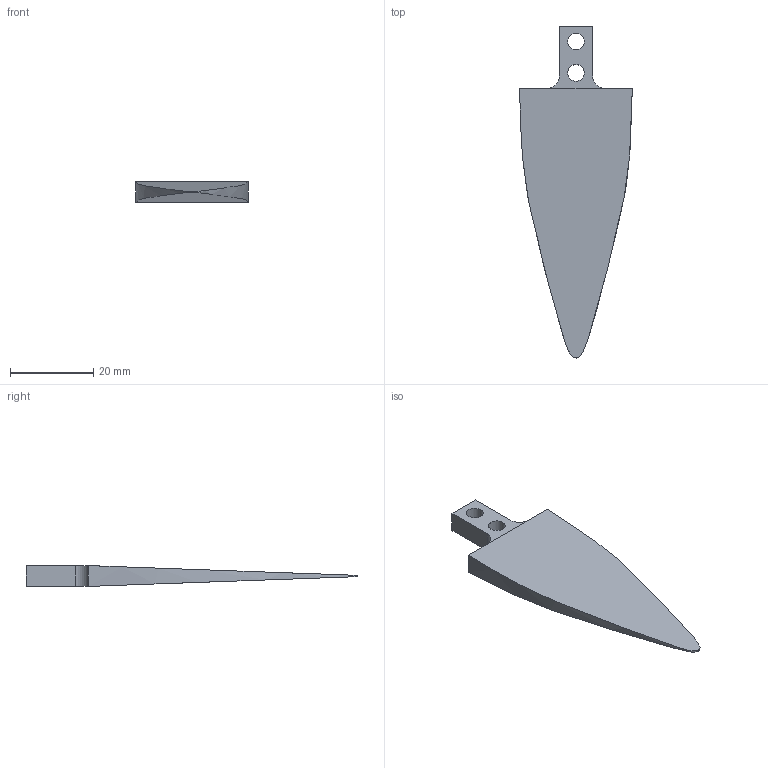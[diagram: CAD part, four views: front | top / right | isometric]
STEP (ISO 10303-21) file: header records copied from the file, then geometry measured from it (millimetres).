
FILE_DESCRIPTION(/* description */ (''),/* implementation_level */ '2;1');
FILE_NAME(/* name */ 'C:\Users\Diego\Downloads\9\Animalitos\dificera.stp',/* time_stamp */ '2019-07-10T16:13:56-04:00',/* author */ ('Diego'),/* organization */ (''),/* preprocessor_version */ 'ST-DEVELOPER v16.5',/* originating_system */ 'Autodesk Inventor 2017',/* authorisation */ '');
FILE_SCHEMA (('AUTOMOTIVE_DESIGN { 1 0 10303 214 3 1 1 }'));
Length unit declared in the file: millimetre
Products named in the file (1): dificera
Bounding box: 27.07 x 79.78 x 5 mm (x, y, z)
Volume: 4334.1 mm3; surface area: 3356.5 mm2
Topology: 1 solids, 1 shells, 15 faces, 35 edges, 22 vertices
Faces by surface type: plane 9, cylinder 4, bspline 2
Full cylindrical faces by diameter (mm): 4 x2
Entity records: 592 total; most frequent: CARTESIAN_POINT 230, ORIENTED_EDGE 66, DIRECTION 65, EDGE_CURVE 33, VERTEX_POINT 22, AXIS2_PLACEMENT_3D 22, EDGE_LOOP 21, LINE 21
